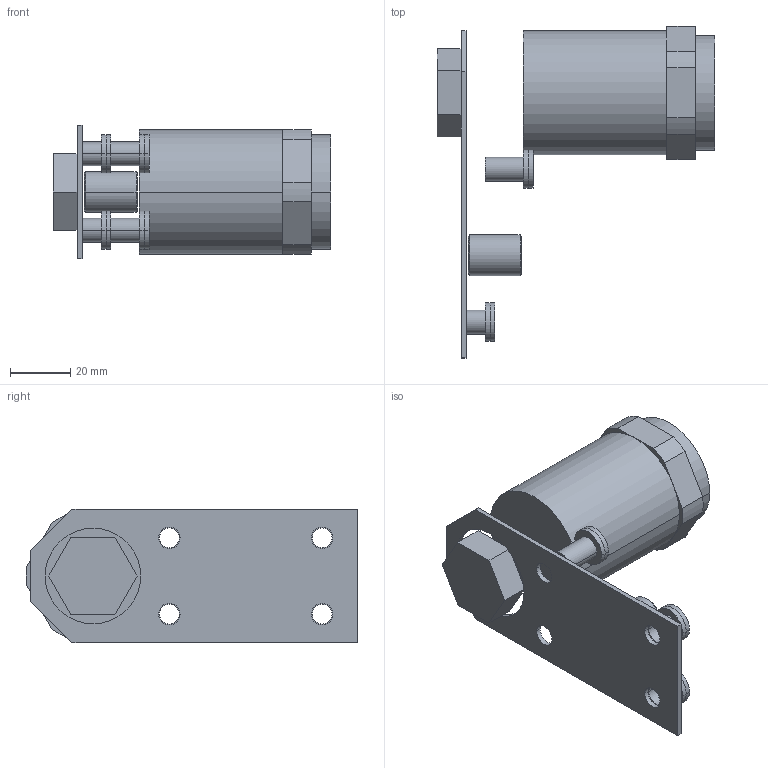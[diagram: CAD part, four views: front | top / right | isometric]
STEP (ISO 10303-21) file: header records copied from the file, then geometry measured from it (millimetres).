
FILE_DESCRIPTION((''),'2;1');
FILE_NAME('UMR4_ASM','2017-08-24T',('jennifer.elliott'),('CenterLine (Windsor) Ltd - Automation Components Division'),'PRO/ENGINEER BY PARAMETRIC TECHNOLOGY CORPORATION, 2015030','PRO/ENGINEER BY PARAMETRIC TECHNOLOGY CORPORATION, 2015030','');
FILE_SCHEMA(('AUTOMOTIVE_DESIGN { 1 0 10303 214 1 1 1 1 }'));
Length unit declared in the file: inch
Products named in the file (24): PRT0819; PRT0820; PRT0821; PRT0822; PRT0823; PRT0824; PRT0825; PRT0826; PRT0827; PRT0828; PRT0829; PRT0830; PRT0831; PRT0832; PRT0833; PRT0834; PRT0835; PRT0836; PRT0837; PRT0838; PRT0839; PRT0840; PRT0841; UMR4_ASM
Assembly tree (23 placements, depth 2):
  UMR4_ASM
    PRT0819
    PRT0820
    PRT0821
    PRT0822
    PRT0823
    PRT0824
    PRT0825
    PRT0826
    PRT0827
    PRT0828
    PRT0829
    PRT0830
    PRT0831
    PRT0832
    PRT0833
    PRT0834
    PRT0835
    PRT0836
    PRT0837
    PRT0838
    PRT0839
    PRT0840
    PRT0841
Bounding box: 92.08 x 110.3 x 44.45 mm (x, y, z)
Volume: 98552.7 mm3; surface area: 31573.4 mm2
Topology: 14 solids, 14 shells, 122 faces, 264 edges, 174 vertices
Faces by surface type: cylinder 64, plane 50, cone 8
Entity records: 4598 total; most frequent: DIRECTION 740, CARTESIAN_POINT 650, ORIENTED_EDGE 528, AXIS2_PLACEMENT_3D 307, EDGE_CURVE 264, VERTEX_POINT 174, EDGE_LOOP 154, CIRCLE 138
